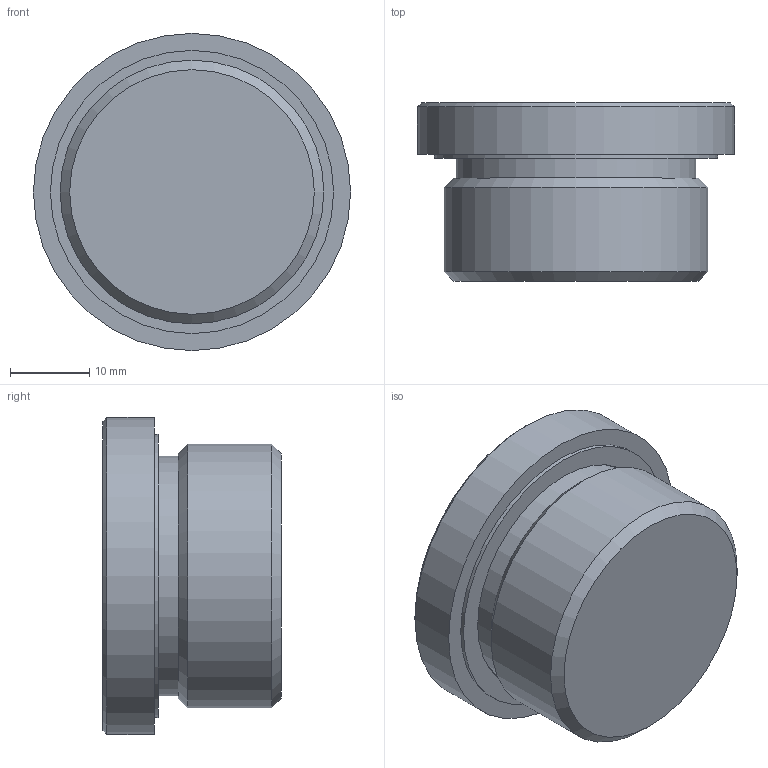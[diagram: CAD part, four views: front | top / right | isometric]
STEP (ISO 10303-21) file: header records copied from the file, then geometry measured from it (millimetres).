
FILE_DESCRIPTION( ( 'STEP AP203' ), '1' );
FILE_NAME( 'C:/Temp/Ganter_Step_05_03_2020/data/3_5/gn749/gn749_b/Threaded plug GN 749-G1-B.stp', '2020-03-12T13:41:41', ( 'License CC BY-ND 4.0' ), ( 'CADENAS' ), ' ', 'PARTsolutions', ' ' );
FILE_SCHEMA( ( 'CONFIG_CONTROL_DESIGN' ) );
Length unit declared in the file: millimetre
Products named in the file (1): _Threaded plug GN 749-G1-B
Bounding box: 40 x 22.5 x 40 mm (x, y, z)
Volume: 19077.8 mm3; surface area: 5777.7 mm2
Topology: 1 solids, 1 shells, 21 faces, 41 edges, 27 vertices
Faces by surface type: plane 13, cylinder 5, cone 3
Full cylindrical faces by diameter (mm): 30.249 x1, 30.649 x1, 33.249 x1, 35.7 x1, 40 x1
Entity records: 526 total; most frequent: DIRECTION 88, CARTESIAN_POINT 78, ORIENTED_EDGE 62, AXIS2_PLACEMENT_3D 35, EDGE_LOOP 34, EDGE_CURVE 31, FACE_OUTER_BOUND 26, VERTEX_POINT 25
